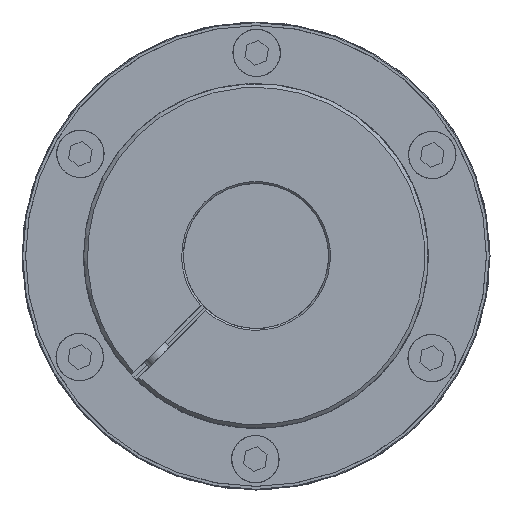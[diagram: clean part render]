
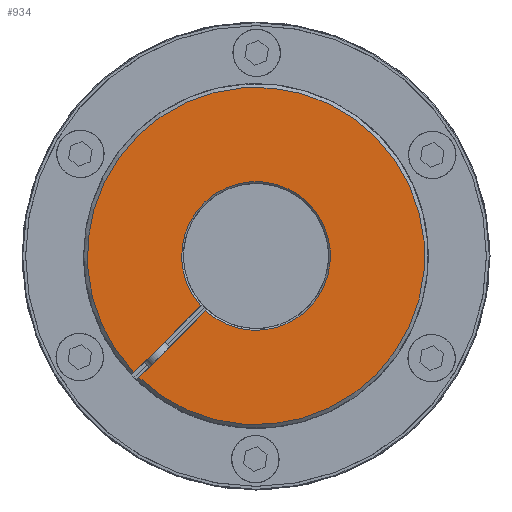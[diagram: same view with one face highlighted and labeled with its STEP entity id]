
A CAD part, left-side view. The second image highlights one B-rep face of the part: STEP entity #934.
In plain terms, the highlighted planar face has unit normal (-1, 0, 0).
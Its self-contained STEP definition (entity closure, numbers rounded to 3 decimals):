
#934 = ADVANCED_FACE( '', ( #1977 ), #1978, .T. );
#1977 = FACE_OUTER_BOUND( '', #2992, .T. );
#1978 = PLANE( '', #2993 );
#2992 = EDGE_LOOP( '', ( #5563, #5564, #5565, #5566 ) );
#2993 = AXIS2_PLACEMENT_3D( '', #5567, #5568, #5569 );
#5563 = ORIENTED_EDGE( '', *, *, #6416, .T. );
#5564 = ORIENTED_EDGE( '', *, *, #6412, .T. );
#5565 = ORIENTED_EDGE( '', *, *, #6415, .T. );
#5566 = ORIENTED_EDGE( '', *, *, #6379, .T. );
#5567 = CARTESIAN_POINT( '', ( -73.5, 0., 0. ) );
#5568 = DIRECTION( '', ( -1., 0., 0. ) );
#5569 = DIRECTION( '', ( 0., 0., 1. ) );
#6379 = EDGE_CURVE( '', #7654, #7652, #7655, .T. );
#6412 = EDGE_CURVE( '', #7702, #7700, #7703, .T. );
#6415 = EDGE_CURVE( '', #7700, #7654, #7707, .T. );
#6416 = EDGE_CURVE( '', #7652, #7702, #7708, .F. );
#7652 = VERTEX_POINT( '', #9932 );
#7654 = VERTEX_POINT( '', #9937 );
#7655 = LINE( '', #9938, #9939 );
#7700 = VERTEX_POINT( '', #10008 );
#7702 = VERTEX_POINT( '', #10013 );
#7703 = LINE( '', #10014, #10015 );
#7707 = CIRCLE( '', #10022, 46.5 );
#7708 = CIRCLE( '', #10023, 20.5 );
#9932 = CARTESIAN_POINT( '', ( -73.5, -20.476, -1. ) );
#9937 = CARTESIAN_POINT( '', ( -73.5, -46.489, -1. ) );
#9938 = CARTESIAN_POINT( '', ( -73.5, 0., -1. ) );
#9939 = VECTOR( '', #11426, 1000. );
#10008 = CARTESIAN_POINT( '', ( -73.5, -46.489, 1. ) );
#10013 = CARTESIAN_POINT( '', ( -73.5, -20.476, 1. ) );
#10014 = CARTESIAN_POINT( '', ( -73.5, 0., 1. ) );
#10015 = VECTOR( '', #11493, 1000. );
#10022 = AXIS2_PLACEMENT_3D( '', #11497, #11498, #11499 );
#10023 = AXIS2_PLACEMENT_3D( '', #11500, #11501, #11502 );
#11426 = DIRECTION( '', ( 0., 1., 0. ) );
#11493 = DIRECTION( '', ( 0., -1., 0. ) );
#11497 = CARTESIAN_POINT( '', ( -73.5, 0., 0. ) );
#11498 = DIRECTION( '', ( -1., 0., 0. ) );
#11499 = DIRECTION( '', ( 0., -1., 0. ) );
#11500 = CARTESIAN_POINT( '', ( -73.5, 0., 0. ) );
#11501 = DIRECTION( '', ( -1., 0., 0. ) );
#11502 = DIRECTION( '', ( 0., -1., 0. ) );
